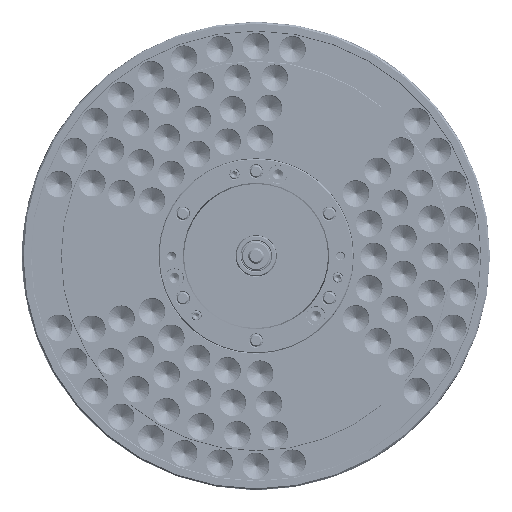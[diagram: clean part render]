
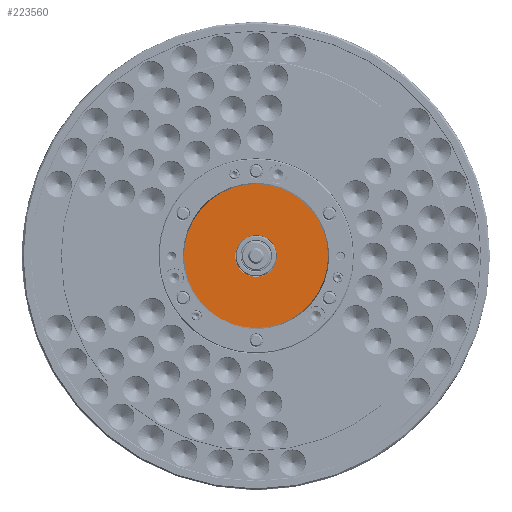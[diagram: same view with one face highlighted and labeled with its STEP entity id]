
A CAD part, left-side view. The second image highlights one B-rep face of the part: STEP entity #223560.
In plain terms, the highlighted planar face has unit normal (-1, 0, 0).
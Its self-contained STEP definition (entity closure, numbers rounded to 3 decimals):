
#2 = FACE_BOUND ( 'NONE', #182785, .T. ) ;
#25449 = CARTESIAN_POINT ( 'NONE',  ( -145., 0., 0. ) ) ;
#26698 = DIRECTION ( 'NONE',  ( 0., 0., 1. ) ) ;
#44704 = VERTEX_POINT ( 'NONE', #306745 ) ;
#48879 = CIRCLE ( 'NONE', #107412, 40.6 ) ;
#51098 = DIRECTION ( 'NONE',  ( -1., 0., 0. ) ) ;
#53206 = DIRECTION ( 'NONE',  ( -1., 0., 0. ) ) ;
#54216 = CARTESIAN_POINT ( 'NONE',  ( -145., 0., 0. ) ) ;
#63724 = ORIENTED_EDGE ( 'NONE', *, *, #166527, .T. ) ;
#72844 = EDGE_CURVE ( 'NONE', #137188, #44704, #103543, .T. ) ;
#83932 = DIRECTION ( 'NONE',  ( 0., 0., 1. ) ) ;
#103543 = CIRCLE ( 'NONE', #349034, 40.6 ) ;
#103738 = DIRECTION ( 'NONE',  ( -1., 0., 0. ) ) ;
#104983 = AXIS2_PLACEMENT_3D ( 'NONE', #170194, #53206, #278251 ) ;
#107412 = AXIS2_PLACEMENT_3D ( 'NONE', #54216, #103738, #217133 ) ;
#137188 = VERTEX_POINT ( 'NONE', #264659 ) ;
#148580 = VERTEX_POINT ( 'NONE', #215090 ) ;
#157786 = EDGE_CURVE ( 'NONE', #44704, #137188, #48879, .T. ) ;
#159161 = AXIS2_PLACEMENT_3D ( 'NONE', #25449, #51098, #83932 ) ;
#161883 = AXIS2_PLACEMENT_3D ( 'NONE', #302043, #162888, #358693 ) ;
#162888 = DIRECTION ( 'NONE',  ( 1., 0., 0. ) ) ;
#166490 = FACE_OUTER_BOUND ( 'NONE', #166913, .T. ) ;
#166527 = EDGE_CURVE ( 'NONE', #148580, #204864, #262672, .T. ) ;
#166913 = EDGE_LOOP ( 'NONE', ( #210405, #63724 ) ) ;
#170194 = CARTESIAN_POINT ( 'NONE',  ( -145., 0., 0. ) ) ;
#182785 = EDGE_LOOP ( 'NONE', ( #314475, #332433 ) ) ;
#204864 = VERTEX_POINT ( 'NONE', #291682 ) ;
#210405 = ORIENTED_EDGE ( 'NONE', *, *, #241641, .T. ) ;
#215090 = CARTESIAN_POINT ( 'NONE',  ( -145., 0., -140.7 ) ) ;
#217133 = DIRECTION ( 'NONE',  ( 0., 0., 1. ) ) ;
#223560 = ADVANCED_FACE ( 'NONE', ( #2, #166490 ), #247045, .F. ) ;
#241641 = EDGE_CURVE ( 'NONE', #204864, #148580, #246673, .T. ) ;
#246673 = CIRCLE ( 'NONE', #159161, 140.7 ) ;
#247045 = PLANE ( 'NONE',  #161883 ) ;
#262672 = CIRCLE ( 'NONE', #104983, 140.7 ) ;
#264659 = CARTESIAN_POINT ( 'NONE',  ( -145., 0., 40.6 ) ) ;
#273719 = DIRECTION ( 'NONE',  ( -1., 0., 0. ) ) ;
#278251 = DIRECTION ( 'NONE',  ( 0., 0., 1. ) ) ;
#291682 = CARTESIAN_POINT ( 'NONE',  ( -145., 0., 140.7 ) ) ;
#302043 = CARTESIAN_POINT ( 'NONE',  ( -145., 140.7, 0. ) ) ;
#306745 = CARTESIAN_POINT ( 'NONE',  ( -145., 0., -40.6 ) ) ;
#314475 = ORIENTED_EDGE ( 'NONE', *, *, #72844, .F. ) ;
#332265 = CARTESIAN_POINT ( 'NONE',  ( -145., 0., 0. ) ) ;
#332433 = ORIENTED_EDGE ( 'NONE', *, *, #157786, .F. ) ;
#349034 = AXIS2_PLACEMENT_3D ( 'NONE', #332265, #273719, #26698 ) ;
#358693 = DIRECTION ( 'NONE',  ( 0., 0., -1. ) ) ;
